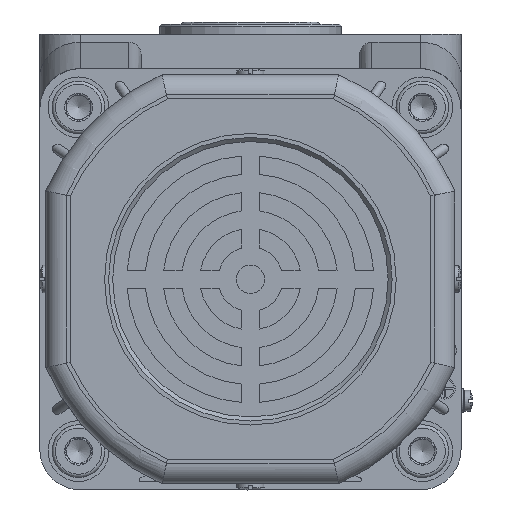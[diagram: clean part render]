
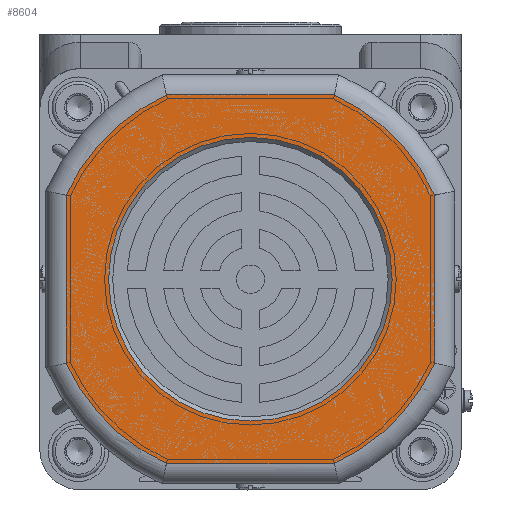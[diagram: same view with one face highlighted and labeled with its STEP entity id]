
A CAD part, left-side view. The second image highlights one B-rep face of the part: STEP entity #8604.
In plain terms, the highlighted planar face has unit normal (-1, 0, 0).
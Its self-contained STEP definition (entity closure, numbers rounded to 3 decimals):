
#1769=LINE('',#50034,#3454);
#1770=LINE('',#50050,#3455);
#1773=LINE('',#50102,#3458);
#1774=LINE('',#50118,#3459);
#3454=VECTOR('',#39083,1.);
#3455=VECTOR('',#39086,1.);
#3458=VECTOR('',#39103,1.);
#3459=VECTOR('',#39106,1.);
#5589=PLANE('',#32807);
#7133=FACE_BOUND('',#12215,.T.);
#7134=FACE_BOUND('',#12216,.T.);
#8604=ADVANCED_FACE('',(#7133,#7134),#5589,.F.);
#12215=EDGE_LOOP('',(#18353));
#12216=EDGE_LOOP('',(#18354,#18355,#18356,#18357,#18358,#18359,#18360,#18361));
#18353=ORIENTED_EDGE('',*,*,#26868,.T.);
#18354=ORIENTED_EDGE('',*,*,#26878,.T.);
#18355=ORIENTED_EDGE('',*,*,#26873,.T.);
#18356=ORIENTED_EDGE('',*,*,#26880,.T.);
#18357=ORIENTED_EDGE('',*,*,#26886,.T.);
#18358=ORIENTED_EDGE('',*,*,#26892,.T.);
#18359=ORIENTED_EDGE('',*,*,#26894,.T.);
#18360=ORIENTED_EDGE('',*,*,#26890,.T.);
#18361=ORIENTED_EDGE('',*,*,#26884,.T.);
#23193=VERTEX_POINT('',#49979);
#23198=VERTEX_POINT('',#50001);
#23199=VERTEX_POINT('',#50003);
#23201=VERTEX_POINT('',#50031);
#23204=VERTEX_POINT('',#50049);
#23205=VERTEX_POINT('',#50065);
#23208=VERTEX_POINT('',#50083);
#23209=VERTEX_POINT('',#50099);
#23212=VERTEX_POINT('',#50117);
#26868=EDGE_CURVE('',#23193,#23193,#29894,.T.);
#26873=EDGE_CURVE('',#23199,#23198,#29898,.T.);
#26878=EDGE_CURVE('',#23201,#23199,#1769,.T.);
#26880=EDGE_CURVE('',#23198,#23204,#1770,.T.);
#26884=EDGE_CURVE('',#23205,#23201,#29901,.T.);
#26886=EDGE_CURVE('',#23204,#23208,#29902,.T.);
#26890=EDGE_CURVE('',#23209,#23205,#1773,.T.);
#26892=EDGE_CURVE('',#23208,#23212,#1774,.T.);
#26894=EDGE_CURVE('',#23212,#23209,#29904,.T.);
#29894=CIRCLE('',#32617,35.);
#29898=CIRCLE('',#32623,50.);
#29901=CIRCLE('',#32629,50.);
#29902=CIRCLE('',#32631,50.);
#29904=CIRCLE('',#32636,50.);
#32617=AXIS2_PLACEMENT_3D('',#49978,#39064,#39065);
#32623=AXIS2_PLACEMENT_3D('',#50002,#39076,#39077);
#32629=AXIS2_PLACEMENT_3D('',#50068,#39092,#39093);
#32631=AXIS2_PLACEMENT_3D('',#50084,#39096,#39097);
#32636=AXIS2_PLACEMENT_3D('',#50121,#39110,#39111);
#32807=AXIS2_PLACEMENT_3D('',#50702,#39612,#39613);
#39064=DIRECTION('',(1.,0.,0.));
#39065=DIRECTION('',(0.,-1.,0.));
#39076=DIRECTION('',(-1.,0.,0.));
#39077=DIRECTION('',(0.,0.,1.));
#39083=DIRECTION('',(0.,-1.,0.));
#39086=DIRECTION('',(0.,0.,1.));
#39092=DIRECTION('',(-1.,0.,0.));
#39093=DIRECTION('',(0.,0.,1.));
#39096=DIRECTION('',(-1.,0.,0.));
#39097=DIRECTION('',(0.,0.,1.));
#39103=DIRECTION('',(0.,0.,-1.));
#39106=DIRECTION('',(0.,1.,0.));
#39110=DIRECTION('',(-1.,0.,0.));
#39111=DIRECTION('',(0.,0.,1.));
#39612=DIRECTION('',(1.,0.,0.));
#39613=DIRECTION('',(0.,0.,1.));
#49978=CARTESIAN_POINT('',(-214.8,-120.671,-58.491));
#49979=CARTESIAN_POINT('',(-214.8,-155.671,-58.491));
#50001=CARTESIAN_POINT('',(-214.8,-166.171,-79.221));
#50002=CARTESIAN_POINT('',(-214.8,-120.671,-58.491));
#50003=CARTESIAN_POINT('',(-214.8,-141.402,-103.991));
#50031=CARTESIAN_POINT('',(-214.8,-99.941,-103.991));
#50034=CARTESIAN_POINT('',(-214.8,-142.46,-103.991));
#50049=CARTESIAN_POINT('',(-214.8,-166.171,-37.76));
#50050=CARTESIAN_POINT('',(-214.8,-166.171,-36.702));
#50065=CARTESIAN_POINT('',(-214.8,-75.171,-79.221));
#50068=CARTESIAN_POINT('',(-214.8,-120.671,-58.491));
#50083=CARTESIAN_POINT('',(-214.8,-141.402,-12.991));
#50084=CARTESIAN_POINT('',(-214.8,-120.671,-58.491));
#50099=CARTESIAN_POINT('',(-214.8,-75.171,-37.76));
#50102=CARTESIAN_POINT('',(-214.8,-75.171,-80.28));
#50117=CARTESIAN_POINT('',(-214.8,-99.941,-12.991));
#50118=CARTESIAN_POINT('',(-214.8,-98.882,-12.991));
#50121=CARTESIAN_POINT('',(-214.8,-120.671,-58.491));
#50702=CARTESIAN_POINT('',(-214.8,-120.671,-58.491));
